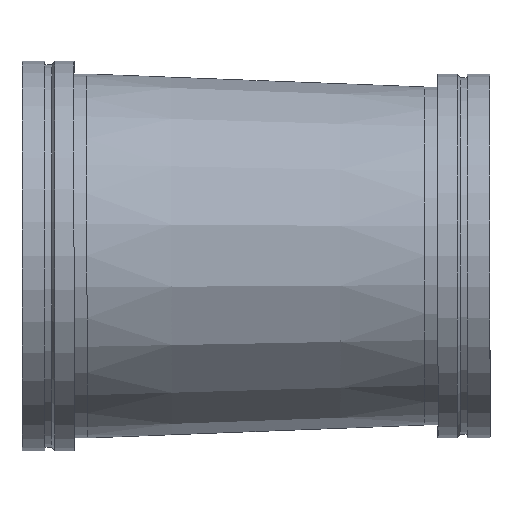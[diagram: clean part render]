
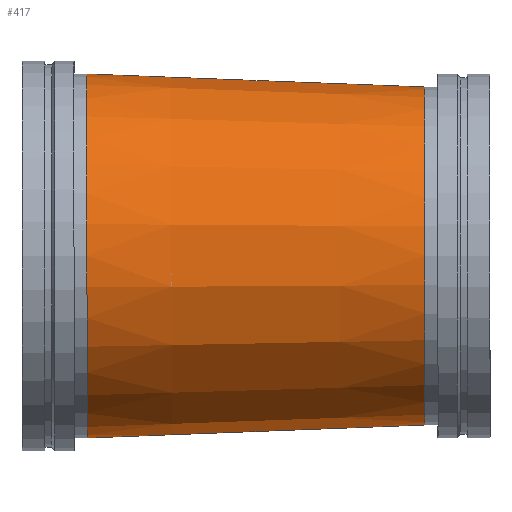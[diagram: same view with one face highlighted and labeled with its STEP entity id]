
A CAD part, top view. The second image highlights one B-rep face of the part: STEP entity #417.
In plain terms, the highlighted conical face has half-angle 2.203 degrees and reference radius 342.9 mm.
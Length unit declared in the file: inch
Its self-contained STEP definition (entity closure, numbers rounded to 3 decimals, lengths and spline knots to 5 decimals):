
#46=CONICAL_SURFACE('',#475,13.5,0.038);
#54=LINE('',#739,#68);
#68=VECTOR('',#587,13.5);
#101=FACE_OUTER_BOUND('',#124,.T.);
#124=EDGE_LOOP('',(#315,#316,#317,#318,#319,#320));
#155=CIRCLE('',#473,14.);
#156=CIRCLE('',#474,14.);
#157=CIRCLE('',#476,13.);
#158=CIRCLE('',#477,13.);
#195=VERTEX_POINT('',#729);
#196=VERTEX_POINT('',#730);
#197=VERTEX_POINT('',#735);
#198=VERTEX_POINT('',#736);
#239=EDGE_CURVE('',#195,#196,#155,.T.);
#240=EDGE_CURVE('',#196,#195,#156,.T.);
#242=EDGE_CURVE('',#197,#198,#157,.T.);
#243=EDGE_CURVE('',#198,#197,#158,.T.);
#244=EDGE_CURVE('',#198,#196,#54,.T.);
#315=ORIENTED_EDGE('',*,*,#242,.F.);
#316=ORIENTED_EDGE('',*,*,#243,.F.);
#317=ORIENTED_EDGE('',*,*,#244,.T.);
#318=ORIENTED_EDGE('',*,*,#240,.T.);
#319=ORIENTED_EDGE('',*,*,#239,.T.);
#320=ORIENTED_EDGE('',*,*,#244,.F.);
#417=ADVANCED_FACE('',(#101),#46,.T.);
#473=AXIS2_PLACEMENT_3D('',#731,#576,#577);
#474=AXIS2_PLACEMENT_3D('',#732,#578,#579);
#475=AXIS2_PLACEMENT_3D('',#734,#581,#582);
#476=AXIS2_PLACEMENT_3D('',#737,#583,#584);
#477=AXIS2_PLACEMENT_3D('',#738,#585,#586);
#576=DIRECTION('center_axis',(1.,0.,0.));
#577=DIRECTION('ref_axis',(0.,0.,-1.));
#578=DIRECTION('center_axis',(1.,0.,0.));
#579=DIRECTION('ref_axis',(0.,0.,-1.));
#581=DIRECTION('center_axis',(-1.,0.,0.));
#582=DIRECTION('ref_axis',(0.,1.,0.));
#583=DIRECTION('center_axis',(1.,0.,0.));
#584=DIRECTION('ref_axis',(0.,0.,-1.));
#585=DIRECTION('center_axis',(1.,0.,0.));
#586=DIRECTION('ref_axis',(0.,0.,-1.));
#587=DIRECTION('',(-0.999,-0.038,0.));
#729=CARTESIAN_POINT('',(5.,14.,0.));
#730=CARTESIAN_POINT('',(5.,-14.,0.));
#731=CARTESIAN_POINT('Origin',(5.,0.,0.));
#732=CARTESIAN_POINT('Origin',(5.,0.,0.));
#734=CARTESIAN_POINT('Origin',(18.,0.,0.));
#735=CARTESIAN_POINT('',(31.,13.,0.));
#736=CARTESIAN_POINT('',(31.,-13.,0.));
#737=CARTESIAN_POINT('Origin',(31.,0.,0.));
#738=CARTESIAN_POINT('Origin',(31.,0.,0.));
#739=CARTESIAN_POINT('',(18.,-13.5,0.));
